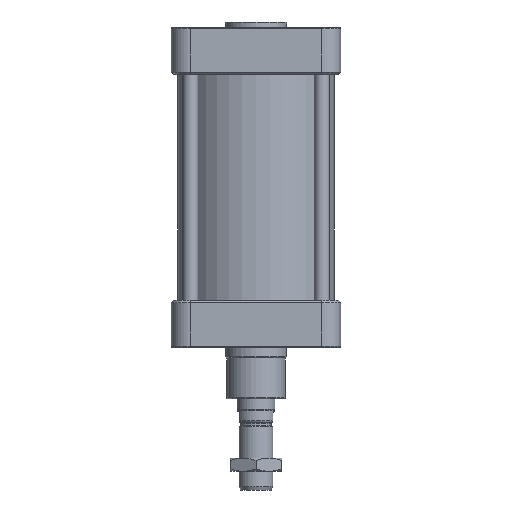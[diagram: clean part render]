
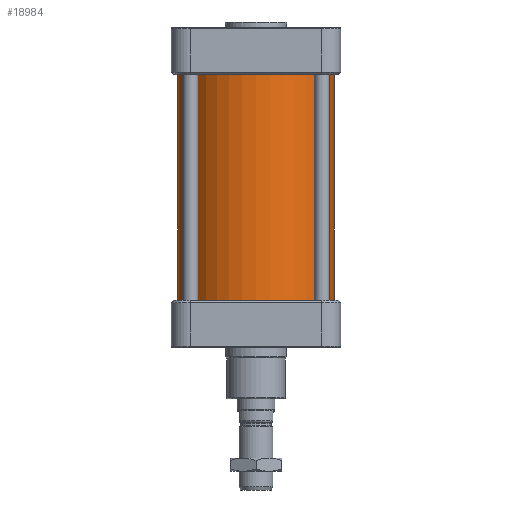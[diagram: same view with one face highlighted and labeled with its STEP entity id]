
A CAD part, front view. The second image highlights one B-rep face of the part: STEP entity #18984.
In plain terms, the highlighted cylindrical face has radius 83.5 mm (diameter 167 mm), a full revolution.
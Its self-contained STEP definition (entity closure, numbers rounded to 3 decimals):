
#1809=LINE('',#36539,#2860);
#2860=VECTOR('',#31126,1000.);
#3911=ORIENTED_EDGE('',*,*,#9881,.T.);
#3912=ORIENTED_EDGE('',*,*,#9882,.T.);
#3913=ORIENTED_EDGE('',*,*,#9883,.T.);
#3914=ORIENTED_EDGE('',*,*,#9882,.F.);
#9881=EDGE_CURVE('',#12866,#12866,#14748,.T.);
#9882=EDGE_CURVE('',#12866,#12867,#1809,.T.);
#9883=EDGE_CURVE('',#12867,#12867,#14749,.T.);
#12866=VERTEX_POINT('',#36538);
#12867=VERTEX_POINT('',#36540);
#14748=CIRCLE('',#28940,83.5);
#14749=CIRCLE('',#28941,83.5);
#15781=EDGE_LOOP('',(#3911,#3912,#3913,#3914));
#17176=FACE_BOUND('',#15781,.T.);
#18571=CYLINDRICAL_SURFACE('',#28939,83.5);
#18984=ADVANCED_FACE('',(#17176),#18571,.T.);
#28939=AXIS2_PLACEMENT_3D('',#36536,#31122,#31123);
#28940=AXIS2_PLACEMENT_3D('',#36537,#31124,#31125);
#28941=AXIS2_PLACEMENT_3D('',#36541,#31127,#31128);
#31122=DIRECTION('',(0.,0.,1.));
#31123=DIRECTION('',(-1.,0.,0.));
#31124=DIRECTION('',(0.,0.,-1.));
#31125=DIRECTION('',(-1.,0.,0.));
#31126=DIRECTION('',(0.,0.,-1.));
#31127=DIRECTION('',(0.,0.,1.));
#31128=DIRECTION('',(-1.,0.,0.));
#36536=CARTESIAN_POINT('',(0.,0.,0.));
#36537=CARTESIAN_POINT('',(0.,0.,52.5));
#36538=CARTESIAN_POINT('',(83.5,0.,52.5));
#36539=CARTESIAN_POINT('',(83.5,0.,0.));
#36540=CARTESIAN_POINT('',(83.5,0.,-187.5));
#36541=CARTESIAN_POINT('',(0.,0.,-187.5));
